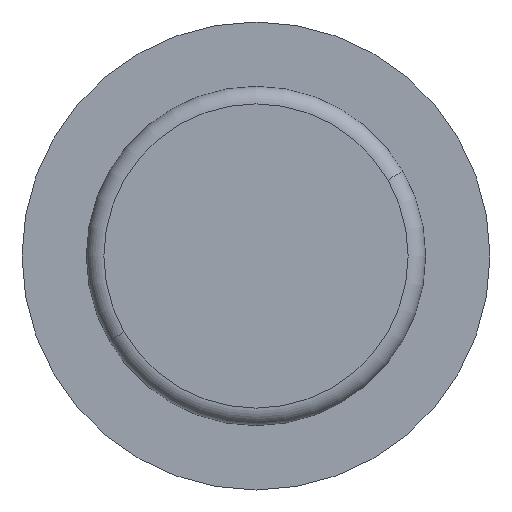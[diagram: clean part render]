
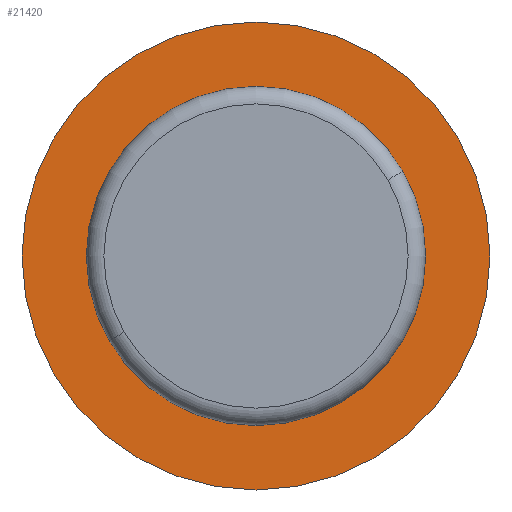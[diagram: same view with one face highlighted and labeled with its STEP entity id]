
A CAD part, front view. The second image highlights one B-rep face of the part: STEP entity #21420.
In plain terms, the highlighted planar face has unit normal (0, -1, 0).
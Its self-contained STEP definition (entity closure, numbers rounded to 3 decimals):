
#20510=CARTESIAN_POINT('',(-16.421,-11.568,
10.128));
#20520=DIRECTION('',(0.,1.,0.));
#20530=DIRECTION('',(-1.,0.,0.));
#20540=AXIS2_PLACEMENT_3D('',#20510,#20520,#20530);
#20550=PLANE('',#20540);
#20560=CARTESIAN_POINT('',(-18.021,-11.568,
21.668));
#20570=DIRECTION('',(0.,-1.,0.));
#20580=DIRECTION('',(1.,0.,0.));
#20590=AXIS2_PLACEMENT_3D('',#20560,#20570,#20580);
#20600=CIRCLE('',#20590,0.5);
#20610=CARTESIAN_POINT('',(-17.952,-11.568,
21.173));
#20620=VERTEX_POINT('',#20610);
#20630=CARTESIAN_POINT('',(-17.521,-11.568,
21.668));
#20640=VERTEX_POINT('',#20630);
#20650=EDGE_CURVE('',#20620,#20640,#20600,.T.);
#20660=ORIENTED_EDGE('',*,*,#20650,.T.);
#20670=CARTESIAN_POINT('',(-16.421,-11.568,
10.128));
#20680=DIRECTION('',(0.,-1.,0.));
#20690=DIRECTION('',(-1.,0.,0.));
#20700=AXIS2_PLACEMENT_3D('',#20670,#20680,#20690);
#20710=CIRCLE('',#20700,11.15);
#20720=CARTESIAN_POINT('',(-14.889,-11.568,
21.173));
#20730=VERTEX_POINT('',#20720);
#20740=EDGE_CURVE('',#20620,#20730,#20710,.T.);
#20750=ORIENTED_EDGE('',*,*,#20740,.F.);
#20760=CARTESIAN_POINT('',(-14.821,-11.568,
21.668));
#20770=DIRECTION('',(0.,-1.,0.));
#20780=DIRECTION('',(1.,0.,0.));
#20790=AXIS2_PLACEMENT_3D('',#20760,#20770,#20780);
#20800=CIRCLE('',#20790,0.5);
#20810=CARTESIAN_POINT('',(-15.321,-11.568,
21.668));
#20820=VERTEX_POINT('',#20810);
#20830=EDGE_CURVE('',#20820,#20730,#20800,.T.);
#20840=ORIENTED_EDGE('',*,*,#20830,.T.);
#20850=CARTESIAN_POINT('',(-15.321,-11.568,
21.224));
#20860=DIRECTION('',(0.,0.,1.));
#20870=VECTOR('',#20860,1.);
#20880=LINE('',#20850,#20870);
#20890=CARTESIAN_POINT('',(-15.321,-11.568,
23.078));
#20900=VERTEX_POINT('',#20890);
#20910=EDGE_CURVE('',#20820,#20900,#20880,.T.);
#20920=ORIENTED_EDGE('',*,*,#20910,.F.);
#20930=CARTESIAN_POINT('',(-15.821,-11.568,
23.078));
#20940=DIRECTION('',(0.,-1.,0.));
#20950=DIRECTION('',(1.,0.,0.));
#20960=AXIS2_PLACEMENT_3D('',#20930,#20940,#20950);
#20970=CIRCLE('',#20960,0.5);
#20980=CARTESIAN_POINT('',(-15.821,-11.568,
23.578));
#20990=VERTEX_POINT('',#20980);
#21000=EDGE_CURVE('',#20900,#20990,#20970,.T.);
#21010=ORIENTED_EDGE('',*,*,#21000,.F.);
#21020=CARTESIAN_POINT('',(-15.321,-11.568,
23.578));
#21030=DIRECTION('',(-1.,0.,0.));
#21040=VECTOR('',#21030,1.);
#21050=LINE('',#21020,#21040);
#21060=CARTESIAN_POINT('',(-17.021,-11.568,
23.578));
#21070=VERTEX_POINT('',#21060);
#21080=EDGE_CURVE('',#20990,#21070,#21050,.T.);
#21090=ORIENTED_EDGE('',*,*,#21080,.F.);
#21100=CARTESIAN_POINT('',(-17.021,-11.568,
23.078));
#21110=DIRECTION('',(0.,-1.,0.));
#21120=DIRECTION('',(1.,0.,0.));
#21130=AXIS2_PLACEMENT_3D('',#21100,#21110,#21120);
#21140=CIRCLE('',#21130,0.5);
#21150=CARTESIAN_POINT('',(-17.521,-11.568,
23.078));
#21160=VERTEX_POINT('',#21150);
#21170=EDGE_CURVE('',#21070,#21160,#21140,.T.);
#21180=ORIENTED_EDGE('',*,*,#21170,.F.);
#21190=CARTESIAN_POINT('',(-17.521,-11.568,
23.078));
#21200=DIRECTION('',(0.,0.,-1.));
#21210=VECTOR('',#21200,1.);
#21220=LINE('',#21190,#21210);
#21230=EDGE_CURVE('',#21160,#20640,#21220,.T.);
#21240=ORIENTED_EDGE('',*,*,#21230,.F.);
#21250=EDGE_LOOP('',(#21240,#21180,#21090,#21010,#20920,#20840,#20750,
#20660));
#21260=FACE_BOUND('',#21250,.T.);
#21270=CARTESIAN_POINT('',(-16.421,-11.568,
10.128));
#21280=DIRECTION('',(0.,1.,0.));
#21290=DIRECTION('',(-1.,0.,0.));
#21300=AXIS2_PLACEMENT_3D('',#21270,#21280,#21290);
#21310=CIRCLE('',#21300,20.);
#21320=CARTESIAN_POINT('',(-36.421,-11.568,
10.128));
#21330=VERTEX_POINT('',#21320);
#21340=CARTESIAN_POINT('',(3.579,-11.568,
10.128));
#21350=VERTEX_POINT('',#21340);
#21360=EDGE_CURVE('',#21330,#21350,#21310,.T.);
#21370=ORIENTED_EDGE('',*,*,#21360,.F.);
#21380=EDGE_CURVE('',#21350,#21330,#21310,.T.);
#21390=ORIENTED_EDGE('',*,*,#21380,.F.);
#21400=EDGE_LOOP('',(#21390,#21370));
#21410=FACE_OUTER_BOUND('',#21400,.T.);
#21420=ADVANCED_FACE('',(#21260,#21410),#20550,.F.);
